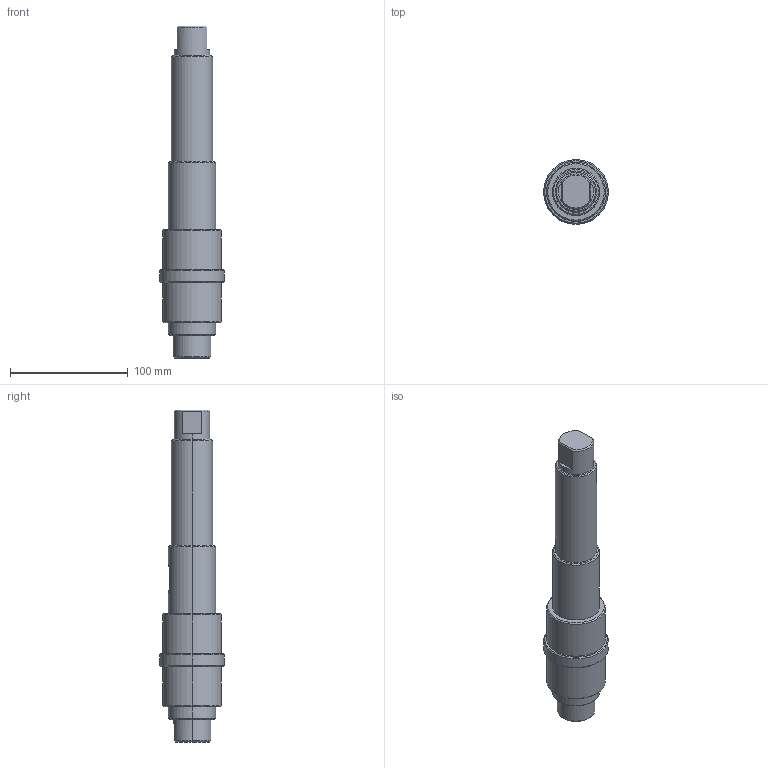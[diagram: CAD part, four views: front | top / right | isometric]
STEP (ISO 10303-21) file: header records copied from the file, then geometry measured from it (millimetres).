
FILE_DESCRIPTION (( 'STEP AP203' ), '1' );
FILE_NAME ('YWSD-2026-03-01-05=003 打磨驱动轴.STEP', '2026-07-24T07:40:02', ( 'Windows 用户' ), ( '' ), 'SwSTEP 2.0', 'SolidWorks 2024', '' );
FILE_SCHEMA (( 'CONFIG_CONTROL_DESIGN' ));
Length unit declared in the file: millimetre
Products named in the file (1): YWSD-2026-03-01-05=003 打磨驱动轴
Bounding box: 55 x 55 x 282 mm (x, y, z)
Volume: 362116.8 mm3; surface area: 39814.6 mm2
Topology: 1 solids, 1 shells, 61 faces, 132 edges, 81 vertices
Faces by surface type: cylinder 21, plane 21, cone 19
Entity records: 1853 total; most frequent: CARTESIAN_POINT 414, DIRECTION 306, ORIENTED_EDGE 264, EDGE_CURVE 132, AXIS2_PLACEMENT_3D 123, VERTEX_POINT 81, EDGE_LOOP 69, ADVANCED_FACE 61
